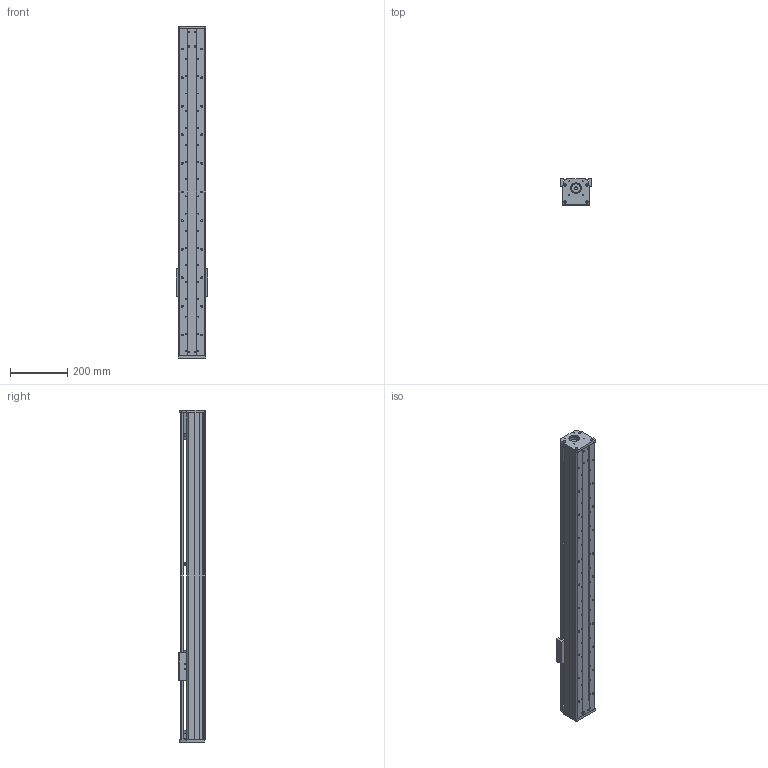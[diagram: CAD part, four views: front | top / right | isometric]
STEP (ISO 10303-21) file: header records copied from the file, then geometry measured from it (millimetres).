
FILE_DESCRIPTION (( 'STEP AP203' ), '1' );
FILE_NAME ('CF95-2-P900.STEP', '2016-02-22T07:40:34', ( 'Sky123.Org' ), ( 'Sky123.Org' ), 'SwSTEP 2.0', 'SolidWorks 2015', '' );
FILE_SCHEMA (( 'CONFIG_CONTROL_DESIGN' ));
Length unit declared in the file: millimetre
Products named in the file (19): 坶踡蹟譫M12-1; 95裔啣-1; 95-2邧寢賑輸; HGR15絳寢; SFU1604-3; hGH15CA賑輸; 95滅袉蝶菜; CF95-57萇儂假蚾啣; 95-2耜啣; CF95固定座（配30-42联轴器）; deep groove ball bearings gb_Rolling bearings 6001 GB 276-94; angular contact ball bearings gb_Rolling bearings S7001 GB 292-94; CF95-2臏倰第; circlips for shaft--type a large gb_GB_CONNECTING_PIECE_RING_RRA 12; 30-42薊粣ん; 95粣創裔啣; CF95-2-P900; 95盓厥傷; SFS1610-520
Assembly tree (22 placements, depth 2):
  CF95-2-P900
    CF95-2臏倰第
    95粣創裔啣
    SFS1610-520
    95裔啣-1
    HGR15絳寢  x2
    hGH15CA賑輸  x2
    CF95-57萇儂假蚾啣
    CF95固定座（配30-42联轴器）
    angular contact ball bearings gb_Rolling bearings S7001 GB 292-94  x2
    30-42薊粣ん
    95盓厥傷
    坶踡蹟譫M12-1
    95-2邧寢賑輸
    SFU1604-3
    95滅袉蝶菜  x2
    95-2耜啣
    deep groove ball bearings gb_Rolling bearings 6001 GB 276-94
    circlips for shaft--type a large gb_GB_CONNECTING_PIECE_RING_RRA 12
Bounding box: 110 x 92.5 x 1161 mm (x, y, z)
Volume: 3496778 mm3; surface area: 1122325.1 mm2
Topology: 22 solids, 22 shells, 1415 faces, 4482 edges, 2978 vertices
Faces by surface type: cylinder 627, plane 534, torus 159, sphere 84, cone 10, bspline 1
Entity records: 45984 total; most frequent: CARTESIAN_POINT 11926, ORIENTED_EDGE 6810, DIRECTION 6748, EDGE_CURVE 3405, AXIS2_PLACEMENT_3D 2673, VERTEX_POINT 2255, CIRCLE 1485, EDGE_LOOP 1484
